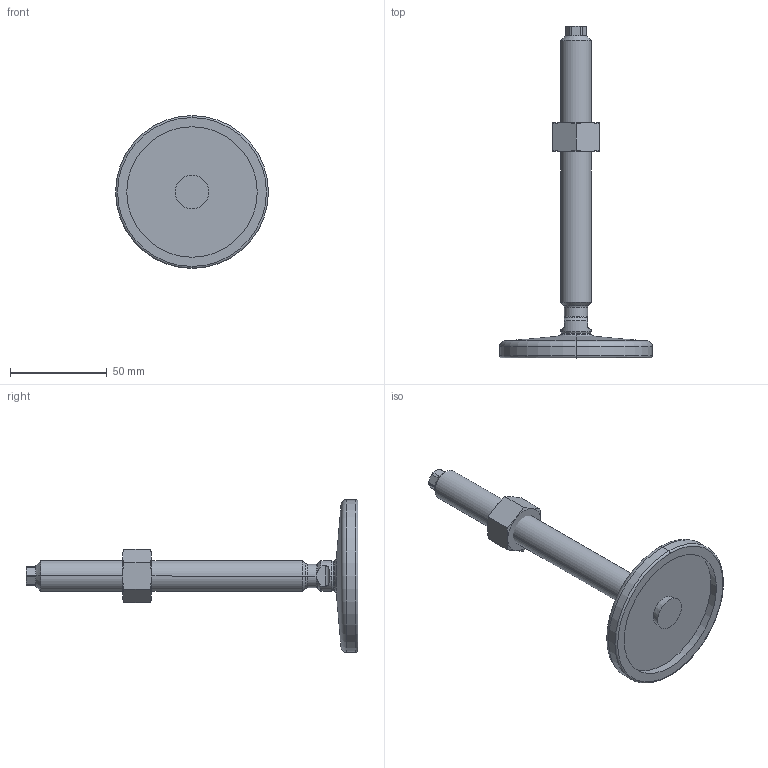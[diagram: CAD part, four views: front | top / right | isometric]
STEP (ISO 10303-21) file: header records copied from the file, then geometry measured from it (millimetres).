
FILE_DESCRIPTION (( 'STEP AP214' ), '1' );
FILE_NAME ('21-80-M16-150-D0-VK.step', '2020-10-02T17:36:03', ( '' ), ( '' ), 'SwSTEP 2.0', 'SolidWorks 2019', '' );
FILE_SCHEMA (( 'AUTOMOTIVE_DESIGN' ));
Length unit declared in the file: millimetre
Products named in the file (4): WB21_Fußteller 21^WB21_V_D0-080-R10-B7 (M8 M10_M12_M16); WB21_Spindel_V^WB21_V_M16-150; WB4032^WB21_V_M16; 21-80-M16-150-D0-VK
Assembly tree (3 placements, depth 2):
  21-80-M16-150-D0-VK
    WB21_Fußteller 21^WB21_V_D0-080-R10-B7 (M8 M10_M12_M16)
    WB21_Spindel_V^WB21_V_M16-150
    WB4032^WB21_V_M16
Bounding box: 79 x 171.64 x 79 mm (x, y, z)
Volume: 67136.5 mm3; surface area: 23979.2 mm2
Topology: 3 solids, 3 shells, 101 faces, 225 edges, 133 vertices
Faces by surface type: cone 33, plane 29, cylinder 25, torus 10, sphere 4
Entity records: 3168 total; most frequent: CARTESIAN_POINT 741, DIRECTION 492, ORIENTED_EDGE 450, EDGE_CURVE 225, AXIS2_PLACEMENT_3D 212, VERTEX_POINT 133, EDGE_LOOP 106, CIRCLE 105
